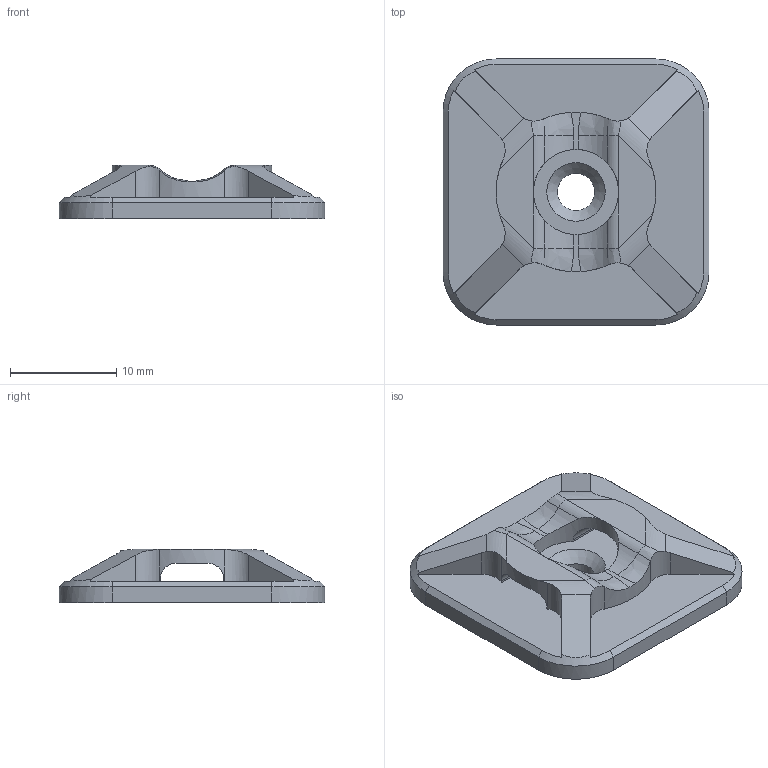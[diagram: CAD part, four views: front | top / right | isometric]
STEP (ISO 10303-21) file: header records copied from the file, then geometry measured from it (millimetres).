
FILE_DESCRIPTION(/* description */ ('Unknown'),/* implementation_level */ '2;1');
FILE_NAME(/* name */ 'Self_Adhesive_Cable_Clip_V3',/* time_stamp */ '2025-03-06T18:00:23+01:00',/* author */ ('VC design'),/* organization */ ('Unknown'),/* preprocessor_version */ 'ST-DEVELOPER v20',/* originating_system */ 'Solid Edge',/* authorisation */ 'Unknown');
FILE_SCHEMA (('AUTOMOTIVE_DESIGN {1 0 10303 214 3 1 1}'));
Length unit declared in the file: millimetre
Products named in the file (1): Self_Adhesive_Cable_Clip_V3
Bounding box: 25 x 25 x 5 mm (x, y, z)
Volume: 1561.6 mm3; surface area: 1675.7 mm2
Topology: 1 solids, 1 shells, 81 faces, 230 edges, 147 vertices
Faces by surface type: plane 34, cylinder 34, bspline 12, cone 1
Full cylindrical faces by diameter (mm): 3.5 x1, 8 x1
Entity records: 3092 total; most frequent: CARTESIAN_POINT 1134, ORIENTED_EDGE 450, DIRECTION 338, EDGE_CURVE 225, VERTEX_POINT 145, AXIS2_PLACEMENT_3D 123, LINE 92, VECTOR 92
